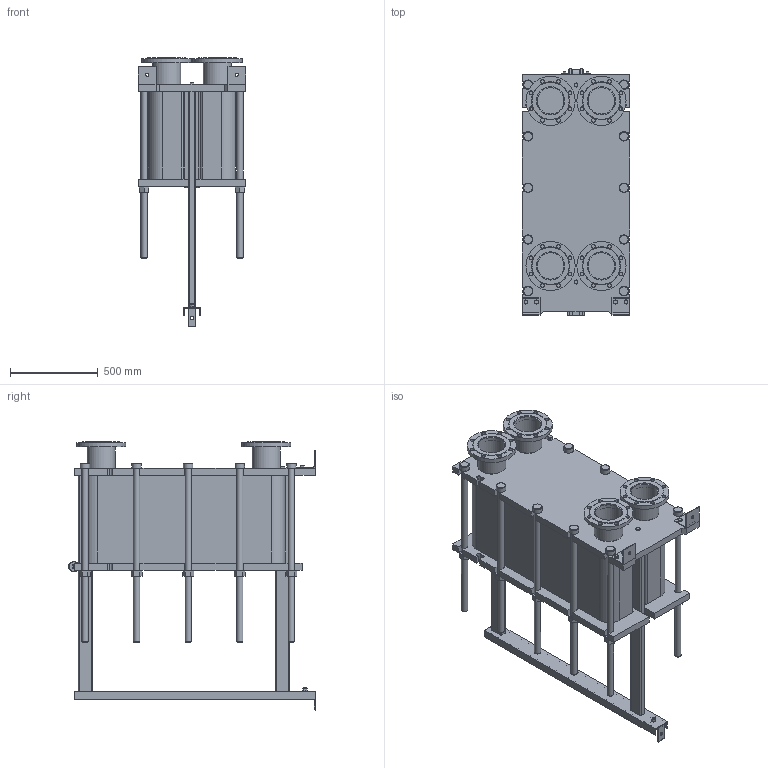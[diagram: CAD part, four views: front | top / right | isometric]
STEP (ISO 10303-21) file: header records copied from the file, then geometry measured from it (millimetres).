
FILE_DESCRIPTION(/* description */ (''),/* implementation_level */ '2;1');
FILE_NAME(/* name */ 'C:\Users\zhuro\Desktop\ENCO\TO\ЭН-041\ЭН-0,5-041-145-1.stp',/* time_stamp */ '2022-06-06T11:01:06+03:00',/* author */ ('zhuro'),/* organization */ (''),/* preprocessor_version */ 'ST-DEVELOPER v18.1',/* originating_system */ 'Autodesk Inventor 2022',/* authorisation */ '');
FILE_SCHEMA (('AUTOMOTIVE_DESIGN { 1 0 10303 214 3 1 1 }'));
Length unit declared in the file: millimetre
Products named in the file (1): ЭН-0,5-041-145-1
Bounding box: 610 x 1406.5 x 1527.5 mm (x, y, z)
Volume: 364994665.8 mm3; surface area: 10016724.2 mm2
Topology: 52 solids, 52 shells, 711 faces, 1696 edges, 1094 vertices
Faces by surface type: plane 487, cylinder 177, cone 41, torus 6
Full cylindrical faces by diameter (mm): 8 x4, 10 x2, 16 x8, 18 x3, 22 x32, 36 x24, 50 x1, 54 x10, 60 x12, 151 x4, 161 x8, 280 x4
Entity records: 22667 total; most frequent: CARTESIAN_POINT 5230, DIRECTION 3644, ORIENTED_EDGE 3392, EDGE_CURVE 1696, AXIS2_PLACEMENT_3D 1272, LINE 1100, VECTOR 1100, VERTEX_POINT 1094
